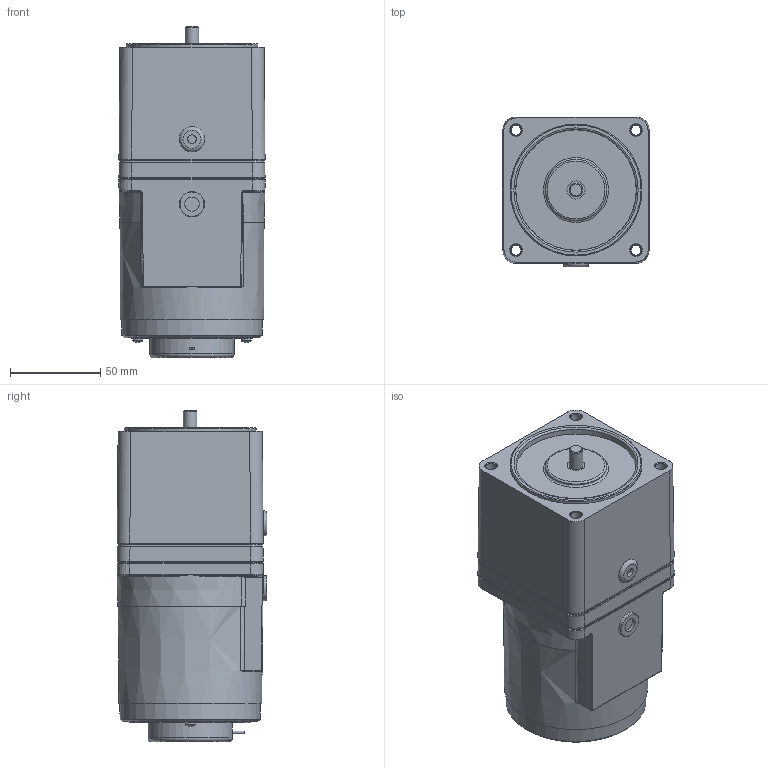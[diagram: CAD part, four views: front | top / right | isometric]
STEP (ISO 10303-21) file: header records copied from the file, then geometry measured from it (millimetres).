
FILE_DESCRIPTION (( 'STEP AP214' ), '1' );
FILE_NAME ('8CSDG¤±-25G.STEP', '2025-01-13T09:16:34', ( '' ), ( '' ), 'SwSTEP 2.0', 'SolidWorks 2024', '' );
FILE_SCHEMA (( 'AUTOMOTIVE_DESIGN' ));
Length unit declared in the file: millimetre
Products named in the file (1): 8CSDGㅁ-25G
Bounding box: 81 x 83 x 183.5 mm (x, y, z)
Volume: 916478.2 mm3; surface area: 82046.3 mm2
Topology: 1 solids, 5 shells, 297 faces, 642 edges, 398 vertices
Faces by surface type: plane 122, cone 52, cylinder 47, torus 42, bspline 32, sphere 2
Full cylindrical faces by diameter (mm): 1.6 x2, 4.8 x1, 5.5 x6, 7.49 x1, 8 x1, 10 x1, 14 x2, 34 x2, 46.7 x1, 67 x1, 73.1 x2
Entity records: 8172 total; most frequent: CARTESIAN_POINT 2394, DIRECTION 1157, ORIENTED_EDGE 1040, EDGE_CURVE 520, AXIS2_PLACEMENT_3D 482, EDGE_LOOP 451, VERTEX_POINT 379, FACE_OUTER_BOUND 349
